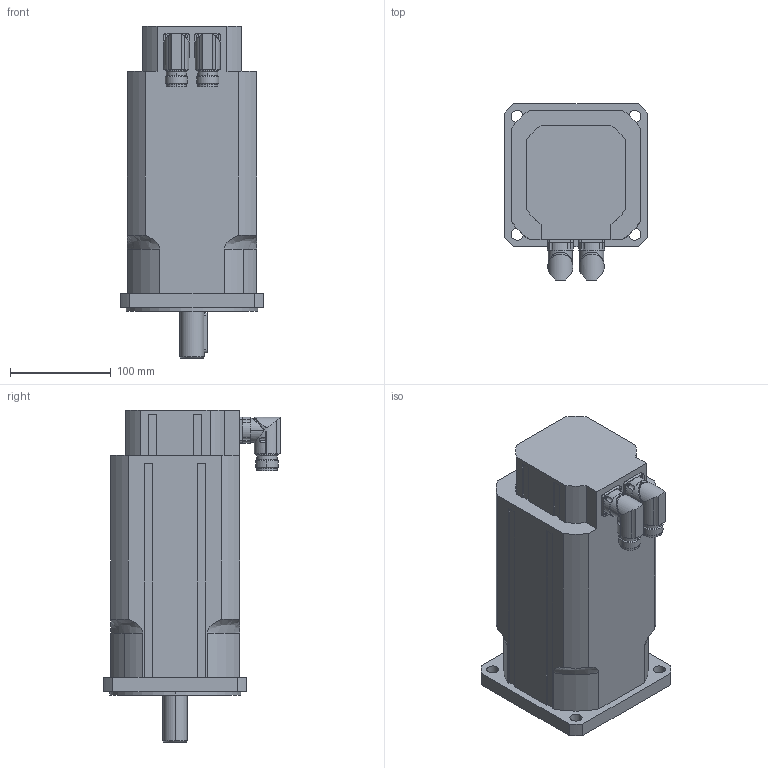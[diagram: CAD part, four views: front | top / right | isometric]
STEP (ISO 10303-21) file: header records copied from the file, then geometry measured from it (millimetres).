
FILE_DESCRIPTION(('STEP AP203'),'2;1');
FILE_NAME('MT5-1350_B.stp','2006-08-28T20:14:17',(''),(''),'2005.2.102','THINKDESIGN','');
FILE_SCHEMA(('CONFIG_CONTROL_DESIGN'));
Length unit declared in the file: millimetre
Bounding box: 142 x 175.5 x 329 mm (x, y, z)
Volume: 4230942.8 mm3; surface area: 199864.7 mm2
Topology: 3 solids, 3 shells, 255 faces, 679 edges, 439 vertices
Faces by surface type: cylinder 110, plane 107, bspline 38
Full cylindrical faces by diameter (mm): 20 x2
Entity records: 9316 total; most frequent: CARTESIAN_POINT 2863, ORIENTED_EDGE 1354, DIRECTION 1327, EDGE_CURVE 677, AXIS2_PLACEMENT_3D 493, VERTEX_POINT 439, VECTOR 341, LINE 341
